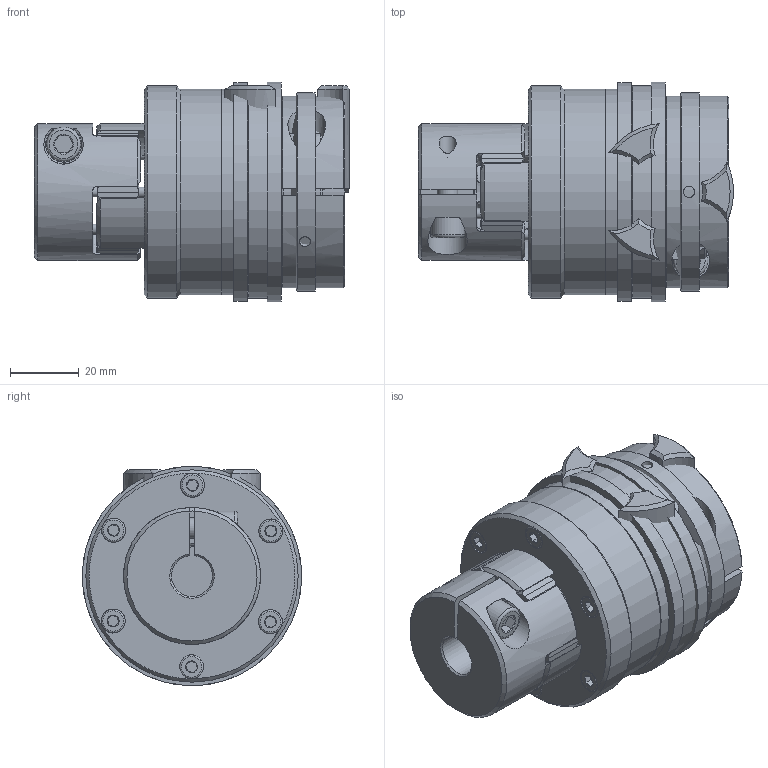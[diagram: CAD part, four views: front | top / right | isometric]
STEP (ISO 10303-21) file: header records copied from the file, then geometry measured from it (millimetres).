
FILE_DESCRIPTION( ( 'Unknown' ), '1' );
FILE_NAME( 'C:/Dokumente und Einstellungen/Sven/Desktop/hp kbk/E-KK/KBK EKK-19-92.stp', 'Unknown', ( 'Unknown' ), ( 'Unknown' ), 'XStep 1.0', 'Unknown', ' ' );
FILE_SCHEMA( ( 'automotive_design' ) );
Length unit declared in the file: millimetre
Products named in the file (16): Assem1; Assem2; ball_bearing_-_6005_0_01_0; ball_bearing_-_6005_0_02_0; ball_bearing_-_6005_0_03_0; Stellring 30_0; Druckring 30_0; a_25_0; Flansch L30_0; Elastomerflansch 19_0; Zahnkranz_19_0; ISO EN DIN 4762_M4x16_0; L-K-30 Grundkörper_0; Klemmnabe 30_0; KBE 2 C - 19_Nabe; ISO EN DIN 4762 M6x18
Bounding box: 92 x 64 x 64 mm (x, y, z)
Volume: 356707.1 mm3; surface area: 162030.1 mm2
Topology: 37 solids, 37 shells, 847 faces, 1847 edges, 1156 vertices
Faces by surface type: plane 298, cylinder 274, cone 208, torus 67
Full cylindrical faces by diameter (mm): 2 x4, 3 x12, 3.242 x18, 3.5 x7, 4 x14, 4.2 x12, 4.917 x2, 5 x5, 6 x6, 6.4 x2, 6.5 x2, 7 x19, 8 x2, 10 x5, 11 x2, 18 x4, 23.9 x2, 25 x7, 30 x2, 32 x6, 34 x2, 38 x4, 40 x2, 40.3 x6, 47 x7, 52 x2, 58 x2, 60 x4, 62 x2, 64 x2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
Entity records: 10024 total; most frequent: CARTESIAN_POINT 2514, DIRECTION 1581, ORIENTED_EDGE 1282, AXIS2_PLACEMENT_3D 714, EDGE_CURVE 641, EDGE_LOOP 514, VERTEX_POINT 459, FACE_OUTER_BOUND 422
